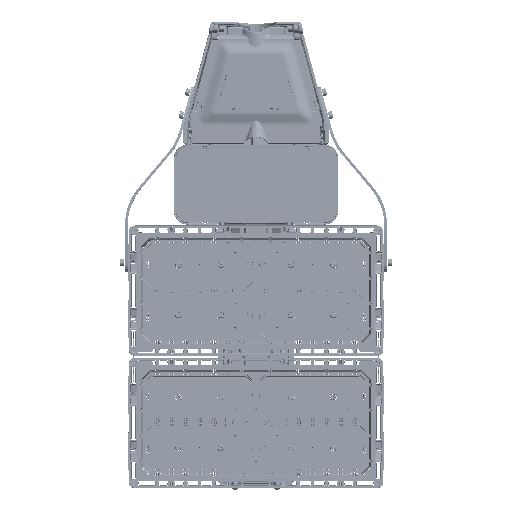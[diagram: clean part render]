
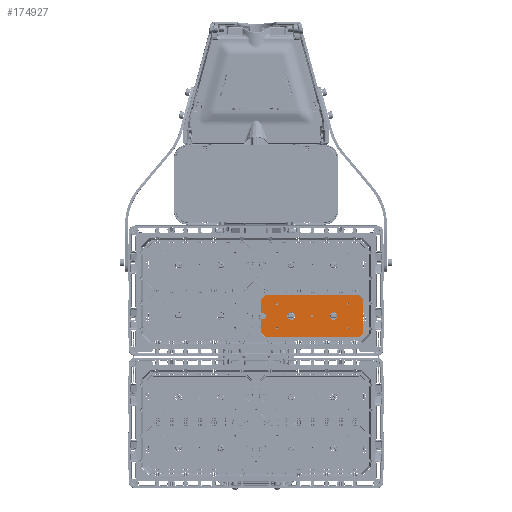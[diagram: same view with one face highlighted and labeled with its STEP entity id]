
A CAD part, front view. The second image highlights one B-rep face of the part: STEP entity #174927.
In plain terms, the highlighted planar face has unit normal (0, -1, 0).
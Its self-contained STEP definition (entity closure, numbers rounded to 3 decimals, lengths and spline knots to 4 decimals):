
#61935=DIRECTION('',(1.,0.,0.));
#61936=VECTOR('',#61935,0.1309);
#61937=CARTESIAN_POINT('',(0.3791,-1.105,7.8083));
#61938=LINE('',#61937,#61936);
#61939=DIRECTION('',(0.,0.,1.));
#61940=VECTOR('',#61939,0.9512);
#61941=CARTESIAN_POINT('',(0.3791,-1.105,7.8083));
#61942=LINE('',#61941,#61940);
#61943=DIRECTION('',(0.707,0.,0.707));
#61944=VECTOR('',#61943,0.4226);
#61945=CARTESIAN_POINT('',(0.3791,-1.105,8.7596));
#61946=LINE('',#61945,#61944);
#61947=DIRECTION('',(1.,0.,0.));
#61948=VECTOR('',#61947,6.6442);
#61949=CARTESIAN_POINT('',(0.6779,-1.105,9.0584));
#61950=LINE('',#61949,#61948);
#61951=DIRECTION('',(0.707,0.,-0.707));
#61952=VECTOR('',#61951,0.4226);
#61953=CARTESIAN_POINT('',(7.3221,-1.105,9.0584));
#61954=LINE('',#61953,#61952);
#61955=DIRECTION('',(0.,0.,-1.));
#61956=VECTOR('',#61955,2.3592);
#61957=CARTESIAN_POINT('',(7.6209,-1.105,8.7596));
#61958=LINE('',#61957,#61956);
#61959=DIRECTION('',(-0.707,0.,-0.707));
#61960=VECTOR('',#61959,0.4226);
#61961=CARTESIAN_POINT('',(7.6209,-1.105,6.4004));
#61962=LINE('',#61961,#61960);
#61963=DIRECTION('',(-1.,0.,0.));
#61964=VECTOR('',#61963,6.6442);
#61965=CARTESIAN_POINT('',(7.3221,-1.105,6.1016));
#61966=LINE('',#61965,#61964);
#61967=DIRECTION('',(-0.707,0.,0.707));
#61968=VECTOR('',#61967,0.4226);
#61969=CARTESIAN_POINT('',(0.6779,-1.105,6.1016));
#61970=LINE('',#61969,#61968);
#61971=DIRECTION('',(0.,0.,1.));
#61972=VECTOR('',#61971,0.9512);
#61973=CARTESIAN_POINT('',(0.3791,-1.105,6.4004));
#61974=LINE('',#61973,#61972);
#61975=DIRECTION('',(1.,0.,0.));
#61976=VECTOR('',#61975,0.1309);
#61977=CARTESIAN_POINT('',(0.3791,-1.105,7.3517));
#61978=LINE('',#61977,#61976);
#61979=CARTESIAN_POINT('',(0.51,-1.105,7.58));
#61980=DIRECTION('',(0.,1.,0.));
#61981=DIRECTION('',(0.,0.,1.));
#61982=AXIS2_PLACEMENT_3D('',#61979,#61980,#61981);
#61984=CARTESIAN_POINT('',(5.5,-1.105,7.581));
#61985=DIRECTION('',(0.,-1.,0.));
#61986=DIRECTION('',(1.,0.,0.));
#61987=AXIS2_PLACEMENT_3D('',#61984,#61985,#61986);
#61989=CARTESIAN_POINT('',(5.5,-1.105,7.581));
#61990=DIRECTION('',(0.,1.,0.));
#61991=DIRECTION('',(1.,0.,0.));
#61992=AXIS2_PLACEMENT_3D('',#61989,#61990,#61991);
#61994=CARTESIAN_POINT('',(2.5,-1.105,7.581));
#61995=DIRECTION('',(0.,-1.,0.));
#61996=DIRECTION('',(1.,0.,0.));
#61997=AXIS2_PLACEMENT_3D('',#61994,#61995,#61996);
#61999=CARTESIAN_POINT('',(2.5,-1.105,7.581));
#62000=DIRECTION('',(0.,1.,0.));
#62001=DIRECTION('',(1.,0.,0.));
#62002=AXIS2_PLACEMENT_3D('',#61999,#62000,#62001);
#62004=CARTESIAN_POINT('',(1.5,-1.105,6.714));
#62005=DIRECTION('',(0.,-1.,0.));
#62006=DIRECTION('',(-1.,0.,0.));
#62007=AXIS2_PLACEMENT_3D('',#62004,#62005,#62006);
#62009=CARTESIAN_POINT('',(1.5,-1.105,6.714));
#62010=DIRECTION('',(0.,-1.,0.));
#62011=DIRECTION('',(1.,0.,0.));
#62012=AXIS2_PLACEMENT_3D('',#62009,#62010,#62011);
#62014=CARTESIAN_POINT('',(1.5,-1.105,8.448));
#62015=DIRECTION('',(0.,-1.,0.));
#62016=DIRECTION('',(-1.,0.,0.));
#62017=AXIS2_PLACEMENT_3D('',#62014,#62015,#62016);
#62019=CARTESIAN_POINT('',(1.5,-1.105,8.448));
#62020=DIRECTION('',(0.,-1.,0.));
#62021=DIRECTION('',(1.,0.,0.));
#62022=AXIS2_PLACEMENT_3D('',#62019,#62020,#62021);
#62024=CARTESIAN_POINT('',(4.,-1.105,7.581));
#62025=DIRECTION('',(0.,-1.,0.));
#62026=DIRECTION('',(-1.,0.,0.));
#62027=AXIS2_PLACEMENT_3D('',#62024,#62025,#62026);
#62029=CARTESIAN_POINT('',(4.,-1.105,7.581));
#62030=DIRECTION('',(0.,-1.,0.));
#62031=DIRECTION('',(1.,0.,0.));
#62032=AXIS2_PLACEMENT_3D('',#62029,#62030,#62031);
#62034=CARTESIAN_POINT('',(6.5,-1.105,6.714));
#62035=DIRECTION('',(0.,-1.,0.));
#62036=DIRECTION('',(-1.,0.,0.));
#62037=AXIS2_PLACEMENT_3D('',#62034,#62035,#62036);
#62039=CARTESIAN_POINT('',(6.5,-1.105,6.714));
#62040=DIRECTION('',(0.,-1.,0.));
#62041=DIRECTION('',(1.,0.,0.));
#62042=AXIS2_PLACEMENT_3D('',#62039,#62040,#62041);
#62044=CARTESIAN_POINT('',(6.5,-1.105,8.448));
#62045=DIRECTION('',(0.,-1.,0.));
#62046=DIRECTION('',(-1.,0.,0.));
#62047=AXIS2_PLACEMENT_3D('',#62044,#62045,#62046);
#62049=CARTESIAN_POINT('',(6.5,-1.105,8.448));
#62050=DIRECTION('',(0.,-1.,0.));
#62051=DIRECTION('',(1.,0.,0.));
#62052=AXIS2_PLACEMENT_3D('',#62049,#62050,#62051);
#158679=CARTESIAN_POINT('',(7.3221,-1.105,6.1016));
#158680=CARTESIAN_POINT('',(0.6779,-1.105,6.1016));
#158681=VERTEX_POINT('',#158679);
#158682=VERTEX_POINT('',#158680);
#158683=CARTESIAN_POINT('',(7.6209,-1.105,8.7596));
#158684=CARTESIAN_POINT('',(7.6209,-1.105,6.4004));
#158685=VERTEX_POINT('',#158683);
#158686=VERTEX_POINT('',#158684);
#158687=CARTESIAN_POINT('',(0.6779,-1.105,9.0584));
#158688=CARTESIAN_POINT('',(7.3221,-1.105,9.0584));
#158689=VERTEX_POINT('',#158687);
#158690=VERTEX_POINT('',#158688);
#158691=CARTESIAN_POINT('',(0.3791,-1.105,6.4004));
#158693=VERTEX_POINT('',#158691);
#164370=CARTESIAN_POINT('',(0.3791,-1.105,8.7596));
#164371=VERTEX_POINT('',#164370);
#168151=CARTESIAN_POINT('',(5.229,-1.105,7.581));
#168152=CARTESIAN_POINT('',(5.771,-1.105,7.581));
#168153=VERTEX_POINT('',#168151);
#168154=VERTEX_POINT('',#168152);
#168159=CARTESIAN_POINT('',(2.229,-1.105,7.581));
#168160=CARTESIAN_POINT('',(2.771,-1.105,7.581));
#168161=VERTEX_POINT('',#168159);
#168162=VERTEX_POINT('',#168160);
#169273=CARTESIAN_POINT('',(1.425,-1.105,6.714));
#169274=CARTESIAN_POINT('',(1.575,-1.105,6.714));
#169275=VERTEX_POINT('',#169273);
#169276=VERTEX_POINT('',#169274);
#169281=CARTESIAN_POINT('',(1.425,-1.105,8.448));
#169282=CARTESIAN_POINT('',(1.575,-1.105,8.448));
#169283=VERTEX_POINT('',#169281);
#169284=VERTEX_POINT('',#169282);
#169285=CARTESIAN_POINT('',(3.925,-1.105,7.581));
#169286=CARTESIAN_POINT('',(4.075,-1.105,7.581));
#169287=VERTEX_POINT('',#169285);
#169288=VERTEX_POINT('',#169286);
#169293=CARTESIAN_POINT('',(6.425,-1.105,6.714));
#169294=CARTESIAN_POINT('',(6.575,-1.105,6.714));
#169295=VERTEX_POINT('',#169293);
#169296=VERTEX_POINT('',#169294);
#169301=CARTESIAN_POINT('',(6.425,-1.105,8.448));
#169302=CARTESIAN_POINT('',(6.575,-1.105,8.448));
#169303=VERTEX_POINT('',#169301);
#169304=VERTEX_POINT('',#169302);
#174094=CARTESIAN_POINT('',(0.3791,-1.105,7.8083));
#174095=CARTESIAN_POINT('',(0.51,-1.105,7.8083));
#174096=VERTEX_POINT('',#174094);
#174097=VERTEX_POINT('',#174095);
#174102=CARTESIAN_POINT('',(0.51,-1.105,7.3517));
#174103=VERTEX_POINT('',#174102);
#174106=CARTESIAN_POINT('',(0.3791,-1.105,7.3517));
#174107=VERTEX_POINT('',#174106);
#174854=CARTESIAN_POINT('',(0.,-1.105,9.38));
#174855=DIRECTION('',(0.,1.,0.));
#174856=DIRECTION('',(1.,0.,0.));
#174857=AXIS2_PLACEMENT_3D('',#174854,#174855,#174856);
#174858=PLANE('',#174857);
#174860=ORIENTED_EDGE('',*,*,#174859,.F.);
#174862=ORIENTED_EDGE('',*,*,#174861,.T.);
#174864=ORIENTED_EDGE('',*,*,#174863,.T.);
#174866=ORIENTED_EDGE('',*,*,#174865,.T.);
#174868=ORIENTED_EDGE('',*,*,#174867,.T.);
#174870=ORIENTED_EDGE('',*,*,#174869,.T.);
#174872=ORIENTED_EDGE('',*,*,#174871,.T.);
#174874=ORIENTED_EDGE('',*,*,#174873,.T.);
#174876=ORIENTED_EDGE('',*,*,#174875,.T.);
#174878=ORIENTED_EDGE('',*,*,#174877,.T.);
#174880=ORIENTED_EDGE('',*,*,#174879,.T.);
#174882=ORIENTED_EDGE('',*,*,#174881,.F.);
#174883=EDGE_LOOP('',(#174860,#174862,#174864,#174866,#174868,#174870,#174872,
#174874,#174876,#174878,#174880,#174882));
#174884=FACE_OUTER_BOUND('',#174883,.F.);
#174886=ORIENTED_EDGE('',*,*,#174885,.T.);
#174888=ORIENTED_EDGE('',*,*,#174887,.F.);
#174889=EDGE_LOOP('',(#174886,#174888));
#174890=FACE_BOUND('',#174889,.F.);
#174892=ORIENTED_EDGE('',*,*,#174891,.T.);
#174894=ORIENTED_EDGE('',*,*,#174893,.F.);
#174895=EDGE_LOOP('',(#174892,#174894));
#174896=FACE_BOUND('',#174895,.F.);
#174898=ORIENTED_EDGE('',*,*,#174897,.T.);
#174900=ORIENTED_EDGE('',*,*,#174899,.T.);
#174901=EDGE_LOOP('',(#174898,#174900));
#174902=FACE_BOUND('',#174901,.F.);
#174904=ORIENTED_EDGE('',*,*,#174903,.T.);
#174906=ORIENTED_EDGE('',*,*,#174905,.T.);
#174907=EDGE_LOOP('',(#174904,#174906));
#174908=FACE_BOUND('',#174907,.F.);
#174910=ORIENTED_EDGE('',*,*,#174909,.T.);
#174912=ORIENTED_EDGE('',*,*,#174911,.T.);
#174913=EDGE_LOOP('',(#174910,#174912));
#174914=FACE_BOUND('',#174913,.F.);
#174916=ORIENTED_EDGE('',*,*,#174915,.T.);
#174918=ORIENTED_EDGE('',*,*,#174917,.T.);
#174919=EDGE_LOOP('',(#174916,#174918));
#174920=FACE_BOUND('',#174919,.F.);
#174922=ORIENTED_EDGE('',*,*,#174921,.T.);
#174924=ORIENTED_EDGE('',*,*,#174923,.T.);
#174925=EDGE_LOOP('',(#174922,#174924));
#174926=FACE_BOUND('',#174925,.F.);
#174927=ADVANCED_FACE('',(#174884,#174890,#174896,#174902,#174908,#174914,
#174920,#174926),#174858,.F.);
#61983=CIRCLE('',#61982,0.2283);
#61988=CIRCLE('',#61987,0.271);
#61993=CIRCLE('',#61992,0.271);
#61998=CIRCLE('',#61997,0.271);
#62003=CIRCLE('',#62002,0.271);
#62008=CIRCLE('',#62007,0.075);
#62013=CIRCLE('',#62012,0.075);
#62018=CIRCLE('',#62017,0.075);
#62023=CIRCLE('',#62022,0.075);
#62028=CIRCLE('',#62027,0.075);
#62033=CIRCLE('',#62032,0.075);
#62038=CIRCLE('',#62037,0.075);
#62043=CIRCLE('',#62042,0.075);
#62048=CIRCLE('',#62047,0.075);
#62053=CIRCLE('',#62052,0.075);
#174859=EDGE_CURVE('',#174096,#174097,#61938,.T.);
#174861=EDGE_CURVE('',#174096,#164371,#61942,.T.);
#174863=EDGE_CURVE('',#164371,#158689,#61946,.T.);
#174865=EDGE_CURVE('',#158689,#158690,#61950,.T.);
#174867=EDGE_CURVE('',#158690,#158685,#61954,.T.);
#174869=EDGE_CURVE('',#158685,#158686,#61958,.T.);
#174871=EDGE_CURVE('',#158686,#158681,#61962,.T.);
#174873=EDGE_CURVE('',#158681,#158682,#61966,.T.);
#174875=EDGE_CURVE('',#158682,#158693,#61970,.T.);
#174877=EDGE_CURVE('',#158693,#174107,#61974,.T.);
#174879=EDGE_CURVE('',#174107,#174103,#61978,.T.);
#174881=EDGE_CURVE('',#174097,#174103,#61983,.T.);
#174885=EDGE_CURVE('',#168154,#168153,#61988,.T.);
#174887=EDGE_CURVE('',#168154,#168153,#61993,.T.);
#174891=EDGE_CURVE('',#168162,#168161,#61998,.T.);
#174893=EDGE_CURVE('',#168162,#168161,#62003,.T.);
#174897=EDGE_CURVE('',#169275,#169276,#62008,.T.);
#174899=EDGE_CURVE('',#169276,#169275,#62013,.T.);
#174903=EDGE_CURVE('',#169283,#169284,#62018,.T.);
#174905=EDGE_CURVE('',#169284,#169283,#62023,.T.);
#174909=EDGE_CURVE('',#169287,#169288,#62028,.T.);
#174911=EDGE_CURVE('',#169288,#169287,#62033,.T.);
#174915=EDGE_CURVE('',#169295,#169296,#62038,.T.);
#174917=EDGE_CURVE('',#169296,#169295,#62043,.T.);
#174921=EDGE_CURVE('',#169303,#169304,#62048,.T.);
#174923=EDGE_CURVE('',#169304,#169303,#62053,.T.);
